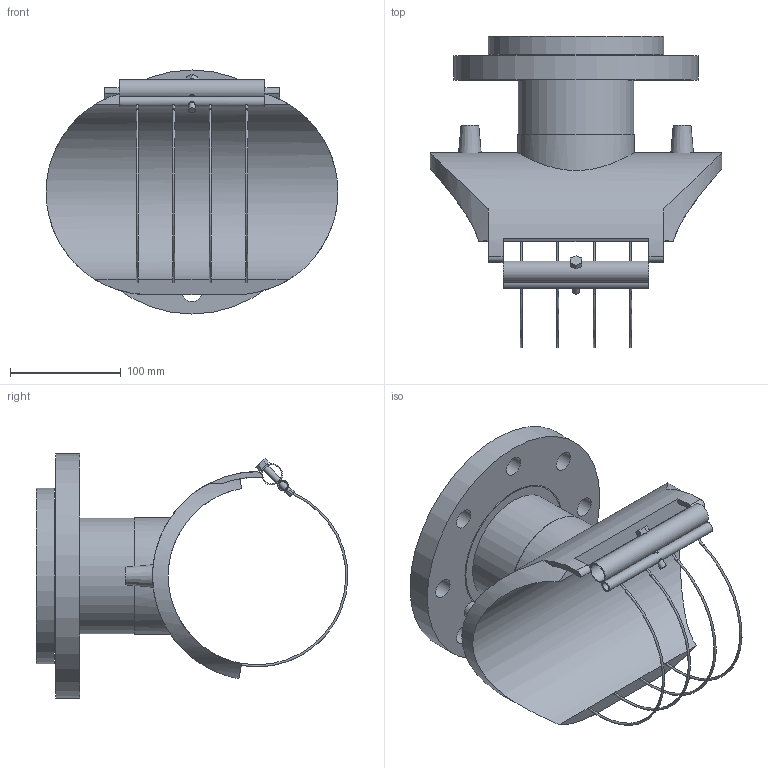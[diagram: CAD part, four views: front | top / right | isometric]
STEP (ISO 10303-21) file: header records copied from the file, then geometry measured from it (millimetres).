
FILE_DESCRIPTION(/* description */ ('Plasson Flanged Branch Saddle 160x100'),/* implementation_level */ '2;1');
FILE_NAME(/* name */ 'C:\Dropbox\99-16-3568-Processing\ElectroFusion Fittings\4959X4\stp\4959X4160100T.stp',/* time_stamp */ '2022-04-28T11:37:10+03:00',/* author */ ('KIM'),/* organization */ (''),/* preprocessor_version */ 'ST-DEVELOPER v17.2',/* originating_system */ 'Autodesk Inventor 2019',/* authorisation */ '');
FILE_SCHEMA (('AUTOMOTIVE_DESIGN { 1 0 10303 214 3 1 1 }'));
Length unit declared in the file: millimetre
Products named in the file (1): 4959X4160100T
Bounding box: 263 x 280.93 x 220 mm (x, y, z)
Volume: 1858708.5 mm3; surface area: 333046.6 mm2
Topology: 2 solids, 2 shells, 79 faces, 243 edges, 168 vertices
Faces by surface type: cylinder 40, plane 29, torus 8, cone 2
Full cylindrical faces by diameter (mm): 6 x3, 7.6 x1, 8 x1, 16 x1, 17.2 x1, 18 x8, 87 x1, 104.4 x1, 105.4 x1, 121.8 x1, 123.8 x1, 158 x1, 220 x1
Entity records: 3722 total; most frequent: CARTESIAN_POINT 1376, ORIENTED_EDGE 490, DIRECTION 481, EDGE_CURVE 245, AXIS2_PLACEMENT_3D 204, VERTEX_POINT 168, CIRCLE 120, EDGE_LOOP 117
